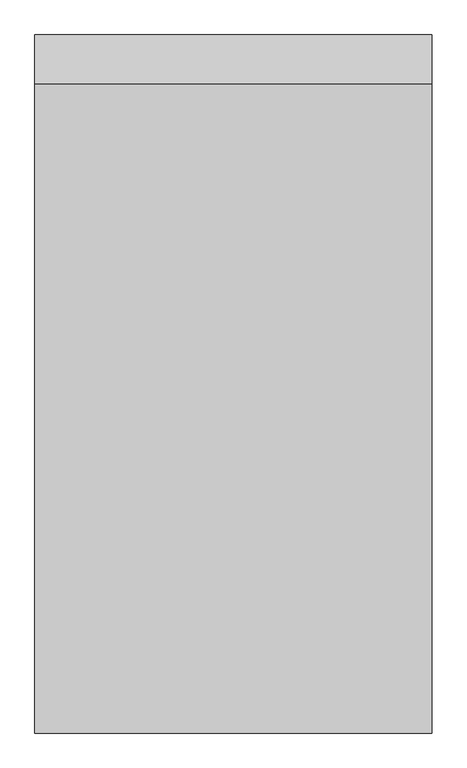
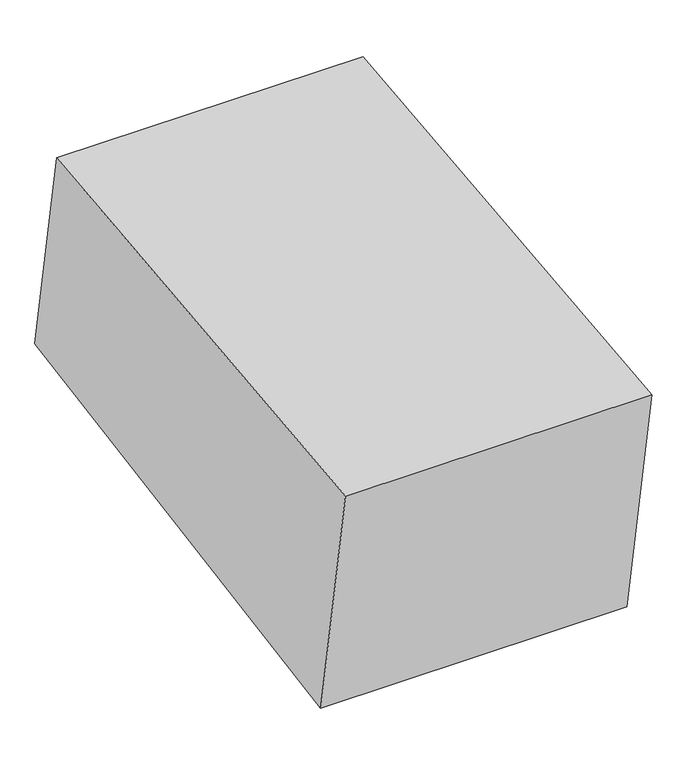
"""IFC4 building model written with IfcOpenShell, lengths in millimetres: proxy geometry, Excavation FamilySP : Excavation FamilySP."""

from ifc_helpers import new_model, si_unit, frame, origin, place, context, project, spatial, polyline, outline, extrude, source, transform, mapped, element, save


def generic_models_e7ead3ed(model_context):
    return source(origin(), model_context, "Body", "SweptSolid", [
        extrude(outline(polyline([(-374.6242625, 2182.8681986), (0.0, 0.0), (-4927.9539369, -845.736408), (-5355.5962937, 1646.0586899), (-374.6242625, 2182.8681986)])), frame((-1524.0, 0.0, 0.0), z_axis=(1.0, 0.0, 0.0), x_axis=(0.0, 1.0, 0.0)), (0.0, 0.0, 1.0), 3048.0),
    ])


if __name__ == "__main__":
    model = new_model("IFC4")
    model_context = context("Model", 3, world=origin())
    ifc_project = project(units=[si_unit("LENGTHUNIT", "METRE", prefix="MILLI")], contexts=[model_context])
    site = spatial("IfcSite", under=ifc_project)
    building = spatial("IfcBuilding", under=site)
    placement = place(None, origin())
    generic_models_shape = generic_models_e7ead3ed(model_context)
    element("IfcBuildingElementProxy", 1, Name="Excavation FamilySP : Excavation FamilySP", ObjectType="Excavation FamilySP : Excavation FamilySP", at=placement, inside=building, context=model_context, shape_type="MappedRepresentation", body=[
        mapped(generic_models_shape, transform((0.0, 0.0, 0.0), x_axis=(1.0, 0.0, 0.0), y_axis=(0.0, 1.0, 0.0), z_axis=(0.0, 0.0, 1.0))),
    ])
    save(model, "model.ifc")
